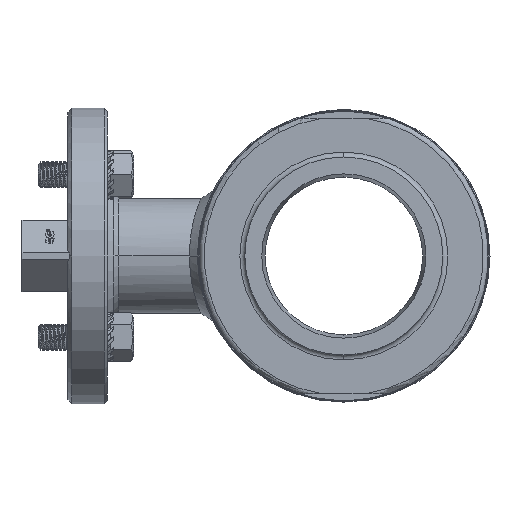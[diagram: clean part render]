
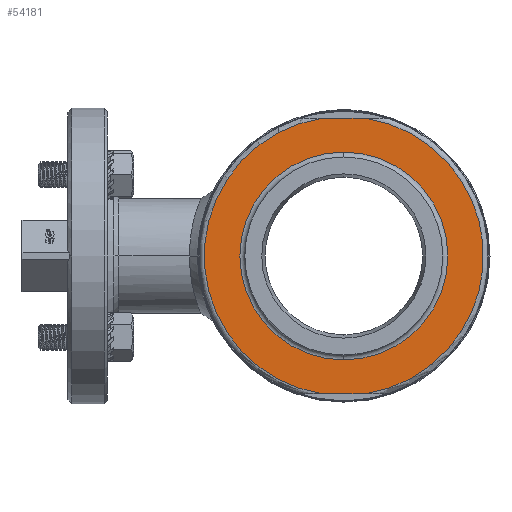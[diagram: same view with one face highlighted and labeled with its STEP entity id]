
A CAD part, left-side view. The second image highlights one B-rep face of the part: STEP entity #54181.
In plain terms, the highlighted planar face has unit normal (-1, 0, 0).
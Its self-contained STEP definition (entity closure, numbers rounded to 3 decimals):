
#2922=DIRECTION('',(0.,-1.,0.));
#2923=VECTOR('',#2922,13.);
#2924=CARTESIAN_POINT('',(-49.,6.5,42.));
#2925=LINE('',#2924,#2923);
#2929=CARTESIAN_POINT('',(-49.,0.,0.));
#2930=DIRECTION('',(-1.,0.,0.));
#2931=DIRECTION('',(0.,-0.153,-0.988));
#2932=AXIS2_PLACEMENT_3D('',#2929,#2930,#2931);
#2937=DIRECTION('',(0.,-1.,0.));
#2938=VECTOR('',#2937,13.);
#2939=CARTESIAN_POINT('',(-49.,6.5,-42.));
#2940=LINE('',#2939,#2938);
#2944=CARTESIAN_POINT('',(-49.,0.,0.));
#2945=DIRECTION('',(-1.,0.,0.));
#2946=DIRECTION('',(0.,0.153,0.988));
#2947=AXIS2_PLACEMENT_3D('',#2944,#2945,#2946);
#2952=CARTESIAN_POINT('',(-49.,0.,0.));
#2953=DIRECTION('',(-1.,0.,0.));
#2954=DIRECTION('',(0.,0.,-1.));
#2955=AXIS2_PLACEMENT_3D('',#2952,#2953,#2954);
#2960=CARTESIAN_POINT('',(-49.,0.,0.));
#2961=DIRECTION('',(-1.,0.,0.));
#2962=DIRECTION('',(0.,0.,1.));
#2963=AXIS2_PLACEMENT_3D('',#2960,#2961,#2962);
#49731=CARTESIAN_POINT('',(-49.,6.5,42.));
#49732=CARTESIAN_POINT('',(-49.,-6.5,42.));
#49733=VERTEX_POINT('',#49731);
#49734=VERTEX_POINT('',#49732);
#49735=CARTESIAN_POINT('',(-49.,6.5,-42.));
#49736=CARTESIAN_POINT('',(-49.,-6.5,-42.));
#49737=VERTEX_POINT('',#49735);
#49738=VERTEX_POINT('',#49736);
#49749=CARTESIAN_POINT('',(-49.,0.,-31.65));
#49750=CARTESIAN_POINT('',(-49.,0.,31.65));
#49751=VERTEX_POINT('',#49749);
#49752=VERTEX_POINT('',#49750);
#54161=CARTESIAN_POINT('',(-49.,0.,0.));
#54162=DIRECTION('',(-1.,0.,0.));
#54163=DIRECTION('',(0.,0.,-1.));
#54164=AXIS2_PLACEMENT_3D('',#54161,#54162,#54163);
#54165=PLANE('',#54164);
#54167=ORIENTED_EDGE('',*,*,#54166,.T.);
#54169=ORIENTED_EDGE('',*,*,#54168,.F.);
#54171=ORIENTED_EDGE('',*,*,#54170,.F.);
#54173=ORIENTED_EDGE('',*,*,#54172,.F.);
#54174=EDGE_LOOP('',(#54167,#54169,#54171,#54173));
#54175=FACE_OUTER_BOUND('',#54174,.F.);
#54176=ORIENTED_EDGE('',*,*,#54151,.T.);
#54178=ORIENTED_EDGE('',*,*,#54177,.T.);
#54179=EDGE_LOOP('',(#54176,#54178));
#54180=FACE_BOUND('',#54179,.F.);
#2933=CIRCLE('',#2932,42.5);
#2948=CIRCLE('',#2947,42.5);
#2956=CIRCLE('',#2955,31.65);
#2964=CIRCLE('',#2963,31.65);
#54151=EDGE_CURVE('',#49751,#49752,#2956,.T.);
#54166=EDGE_CURVE('',#49733,#49734,#2925,.T.);
#54168=EDGE_CURVE('',#49738,#49734,#2933,.T.);
#54170=EDGE_CURVE('',#49737,#49738,#2940,.T.);
#54172=EDGE_CURVE('',#49733,#49737,#2948,.T.);
#54177=EDGE_CURVE('',#49752,#49751,#2964,.T.);
#54181=ADVANCED_FACE('',(#54175,#54180),#54165,.T.);
